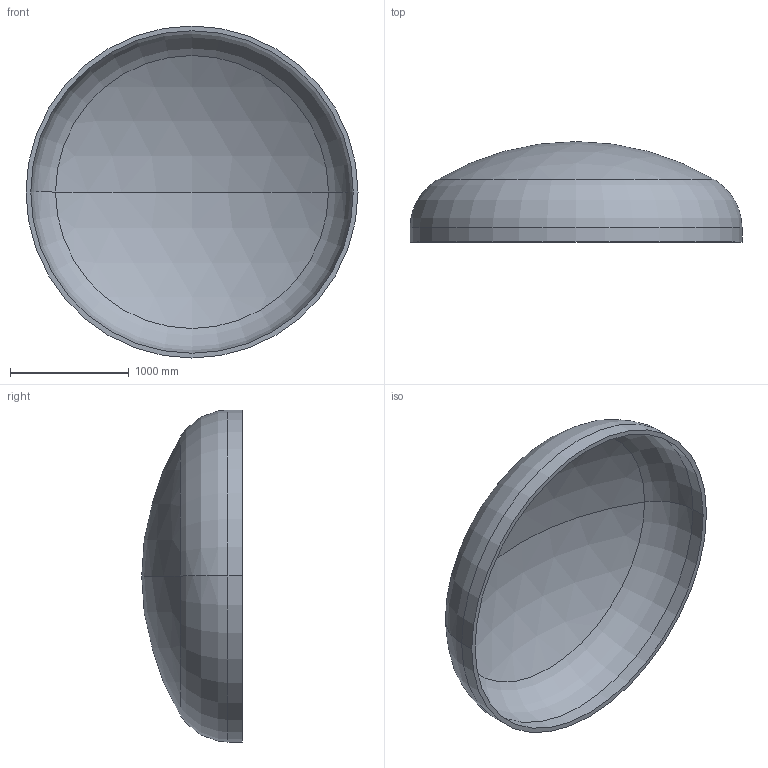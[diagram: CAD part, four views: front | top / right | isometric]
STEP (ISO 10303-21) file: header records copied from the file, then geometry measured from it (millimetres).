
FILE_DESCRIPTION (( 'STEP AP203' ), '1' );
FILE_NAME ('DIN 28013 Korbbogenform_-_Boden DIN 28013 - 2800 x 120 - I - s=40.step', '2016-07-01T16:58:01', ( '' ), ( '' ), 'SwSTEP 2.0', 'SolidWorks 2013', '' );
FILE_SCHEMA (( 'CONFIG_CONTROL_DESIGN' ));
Length unit declared in the file: millimetre
Products named in the file (1): DIN 28013 Korbbogenform_-_Boden DIN 28013 - 2800 x 120 - I - s=40
Bounding box: 2800 x 847.2 x 2800 mm (x, y, z)
Volume: 376181919 mm3; surface area: 19159272.3 mm2
Topology: 1 solids, 1 shells, 13 faces, 24 edges, 14 vertices
Faces by surface type: torus 4, cylinder 4, sphere 4, plane 1
Entity records: 407 total; most frequent: DIRECTION 72, CARTESIAN_POINT 52, ORIENTED_EDGE 48, AXIS2_PLACEMENT_3D 34, EDGE_CURVE 24, CIRCLE 20, VERTEX_POINT 14, EDGE_LOOP 14
